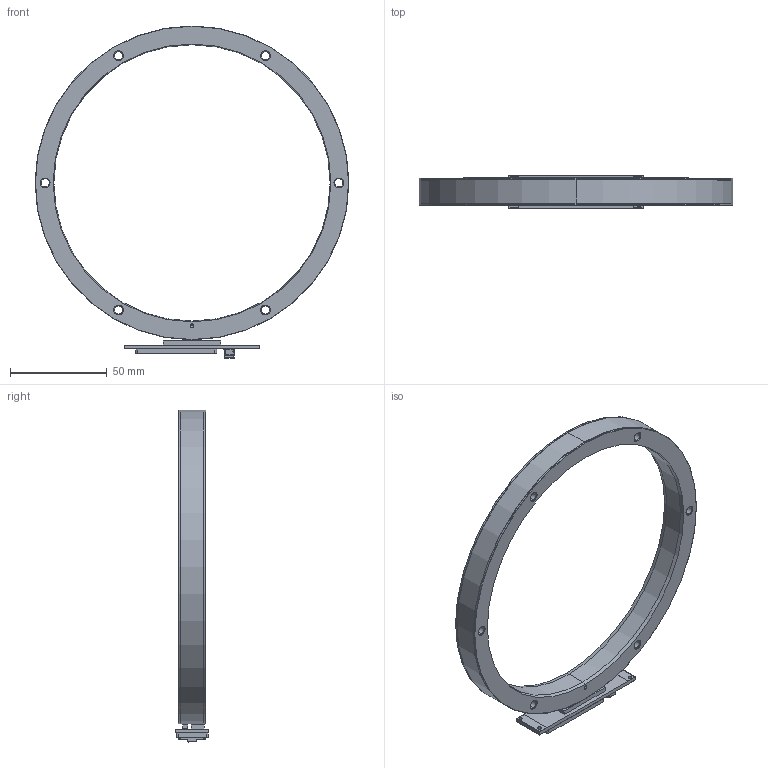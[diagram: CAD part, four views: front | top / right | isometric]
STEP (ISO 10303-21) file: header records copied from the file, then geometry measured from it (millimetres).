
FILE_DESCRIPTION (( 'STEP AP214' ), '1' );
FILE_NAME ('DBRxHx_SAR162_exposed.STEP', '2024-02-02T11:16:47', ( '' ), ( '' ), 'SwSTEP 2.0', 'SolidWorks 2022', '' );
FILE_SCHEMA (( 'AUTOMOTIVE_DESIGN' ));
Length unit declared in the file: millimetre
Products named in the file (1): DBRxHx_SAR162_exposed
Bounding box: 162.4 x 17 x 171.82 mm (x, y, z)
Volume: 63561.8 mm3; surface area: 27430.1 mm2
Topology: 1 solids, 2 shells, 1585 faces, 4410 edges, 2917 vertices
Faces by surface type: plane 1209, bspline 203, cylinder 125, cone 36, torus 8, sphere 4
Entity records: 78505 total; most frequent: CARTESIAN_POINT 25096, ORIENTED_EDGE 8798, DIRECTION 5151, EDGE_CURVE 4399, VERTEX_POINT 2916, B_SPLINE_CURVE_WITH_KNOTS 2158, LINE 2097, VECTOR 2097
